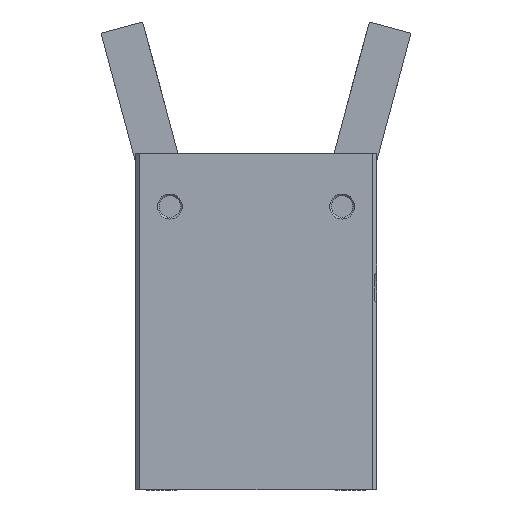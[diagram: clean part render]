
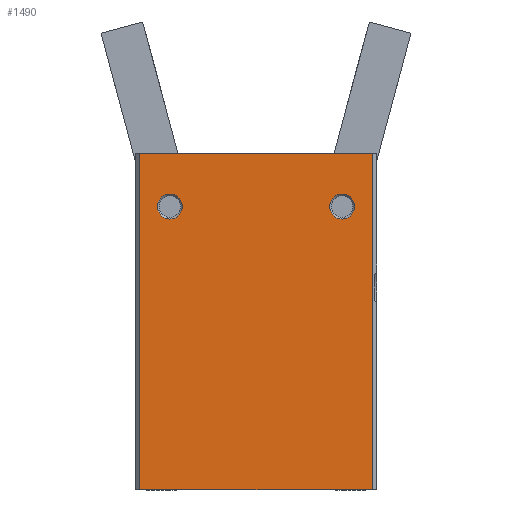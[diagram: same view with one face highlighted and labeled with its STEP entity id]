
A CAD part, front view. The second image highlights one B-rep face of the part: STEP entity #1490.
In plain terms, the highlighted planar face has unit normal (0, -1, 0).
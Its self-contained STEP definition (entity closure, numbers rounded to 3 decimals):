
#73 = EDGE_CURVE ( 'NONE', #2280, #2271, #7005, .T. ) ;
#82 = EDGE_CURVE ( 'NONE', #2109, #1973, #7032, .T. ) ;
#87 = EDGE_CURVE ( 'NONE', #1797, #2206, #7047, .T. ) ;
#923 = AXIS2_PLACEMENT_3D ( 'NONE', #6411, #6410, #6409 ) ;
#925 = AXIS2_PLACEMENT_3D ( 'NONE', #6399, #6398, #6397 ) ;
#1122 = FACE_BOUND ( 'NONE', #2984, .T. ) ;
#1123 = FACE_BOUND ( 'NONE', #2985, .T. ) ;
#1124 = FACE_OUTER_BOUND ( 'NONE', #2986, .T. ) ;
#1161 = LINE ( 'NONE', #5655, #1162 ) ;
#1162 = VECTOR ( 'NONE', #5654, 1000. ) ;
#1165 = LINE ( 'NONE', #5651, #1166 ) ;
#1166 = VECTOR ( 'NONE', #5650, 1000. ) ;
#1167 = LINE ( 'NONE', #5649, #1168 ) ;
#1168 = VECTOR ( 'NONE', #5648, 1000. ) ;
#1169 = CIRCLE ( 'NONE', #2563, 1.45 ) ;
#1171 = CIRCLE ( 'NONE', #2564, 1.45 ) ;
#1490 = ADVANCED_FACE ( 'NONE', ( #1122, #1123, #1124 ), #5730, .T. ) ;
#1511 = EDGE_CURVE ( 'NONE', #2271, #2267, #1161, .T. ) ;
#1513 = EDGE_CURVE ( 'NONE', #2267, #2281, #1165, .T. ) ;
#1514 = EDGE_CURVE ( 'NONE', #2281, #2280, #1167, .T. ) ;
#1515 = EDGE_CURVE ( 'NONE', #1973, #2109, #1169, .T. ) ;
#1516 = EDGE_CURVE ( 'NONE', #2206, #1797, #1171, .T. ) ;
#1797 = VERTEX_POINT ( 'NONE', #4901 ) ;
#1973 = VERTEX_POINT ( 'NONE', #4852 ) ;
#2109 = VERTEX_POINT ( 'NONE', #4672 ) ;
#2206 = VERTEX_POINT ( 'NONE', #4545 ) ;
#2267 = VERTEX_POINT ( 'NONE', #4462 ) ;
#2271 = VERTEX_POINT ( 'NONE', #4458 ) ;
#2280 = VERTEX_POINT ( 'NONE', #4446 ) ;
#2281 = VERTEX_POINT ( 'NONE', #4445 ) ;
#2543 = AXIS2_PLACEMENT_3D ( 'NONE', #5729, #5728, #5725 ) ;
#2563 = AXIS2_PLACEMENT_3D ( 'NONE', #5647, #5646, #5645 ) ;
#2564 = AXIS2_PLACEMENT_3D ( 'NONE', #5644, #5643, #5642 ) ;
#2984 = EDGE_LOOP ( 'NONE', ( #3100, #3060 ) ) ;
#2985 = EDGE_LOOP ( 'NONE', ( #3099, #3098 ) ) ;
#2986 = EDGE_LOOP ( 'NONE', ( #3097, #3062, #3096, #3095 ) ) ;
#3060 = ORIENTED_EDGE ( 'NONE', *, *, #1516, .T. ) ;
#3062 = ORIENTED_EDGE ( 'NONE', *, *, #1514, .T. ) ;
#3095 = ORIENTED_EDGE ( 'NONE', *, *, #1511, .T. ) ;
#3096 = ORIENTED_EDGE ( 'NONE', *, *, #73, .T. ) ;
#3097 = ORIENTED_EDGE ( 'NONE', *, *, #1513, .T. ) ;
#3098 = ORIENTED_EDGE ( 'NONE', *, *, #1515, .T. ) ;
#3099 = ORIENTED_EDGE ( 'NONE', *, *, #82, .T. ) ;
#3100 = ORIENTED_EDGE ( 'NONE', *, *, #87, .T. ) ;
#4445 = CARTESIAN_POINT ( 'NONE',  ( -13.5, -8., -19.5 ) ) ;
#4446 = CARTESIAN_POINT ( 'NONE',  ( 13.5, -8., -19.5 ) ) ;
#4458 = CARTESIAN_POINT ( 'NONE',  ( 13.5, -8., 19.5 ) ) ;
#4462 = CARTESIAN_POINT ( 'NONE',  ( -13.5, -8., 19.5 ) ) ;
#4545 = CARTESIAN_POINT ( 'NONE',  ( 10., -8., 14.85 ) ) ;
#4672 = CARTESIAN_POINT ( 'NONE',  ( -10., -8., 11.95 ) ) ;
#4852 = CARTESIAN_POINT ( 'NONE',  ( -10., -8., 14.85 ) ) ;
#4901 = CARTESIAN_POINT ( 'NONE',  ( 10., -8., 11.95 ) ) ;
#5642 = DIRECTION ( 'NONE',  ( 0., 0., -1. ) ) ;
#5643 = DIRECTION ( 'NONE',  ( 0., 1., 0. ) ) ;
#5644 = CARTESIAN_POINT ( 'NONE',  ( 10., -8., 13.4 ) ) ;
#5645 = DIRECTION ( 'NONE',  ( 0., 0., -1. ) ) ;
#5646 = DIRECTION ( 'NONE',  ( 0., 1., 0. ) ) ;
#5647 = CARTESIAN_POINT ( 'NONE',  ( -10., -8., 13.4 ) ) ;
#5648 = DIRECTION ( 'NONE',  ( 1., 0., 0. ) ) ;
#5649 = CARTESIAN_POINT ( 'NONE',  ( -14., -8., -19.5 ) ) ;
#5650 = DIRECTION ( 'NONE',  ( 0., 0., -1. ) ) ;
#5651 = CARTESIAN_POINT ( 'NONE',  ( -13.5, -8., 19.5 ) ) ;
#5654 = DIRECTION ( 'NONE',  ( -1., 0., 0. ) ) ;
#5655 = CARTESIAN_POINT ( 'NONE',  ( -14., -8., 19.5 ) ) ;
#5725 = DIRECTION ( 'NONE',  ( 0., 0., -1. ) ) ;
#5728 = DIRECTION ( 'NONE',  ( 0., -1., 0. ) ) ;
#5729 = CARTESIAN_POINT ( 'NONE',  ( -14., -8., 19.5 ) ) ;
#5730 = PLANE ( 'NONE',  #2543 ) ;
#6397 = DIRECTION ( 'NONE',  ( 0., 0., -1. ) ) ;
#6398 = DIRECTION ( 'NONE',  ( 0., 1., 0. ) ) ;
#6399 = CARTESIAN_POINT ( 'NONE',  ( 10., -8., 13.4 ) ) ;
#6409 = DIRECTION ( 'NONE',  ( 0., 0., -1. ) ) ;
#6410 = DIRECTION ( 'NONE',  ( 0., 1., 0. ) ) ;
#6411 = CARTESIAN_POINT ( 'NONE',  ( -10., -8., 13.4 ) ) ;
#6434 = DIRECTION ( 'NONE',  ( 0., 0., 1. ) ) ;
#6435 = CARTESIAN_POINT ( 'NONE',  ( 13.5, -8., 19.5 ) ) ;
#7005 = LINE ( 'NONE', #6435, #7007 ) ;
#7007 = VECTOR ( 'NONE', #6434, 1000. ) ;
#7032 = CIRCLE ( 'NONE', #923, 1.45 ) ;
#7047 = CIRCLE ( 'NONE', #925, 1.45 ) ;
